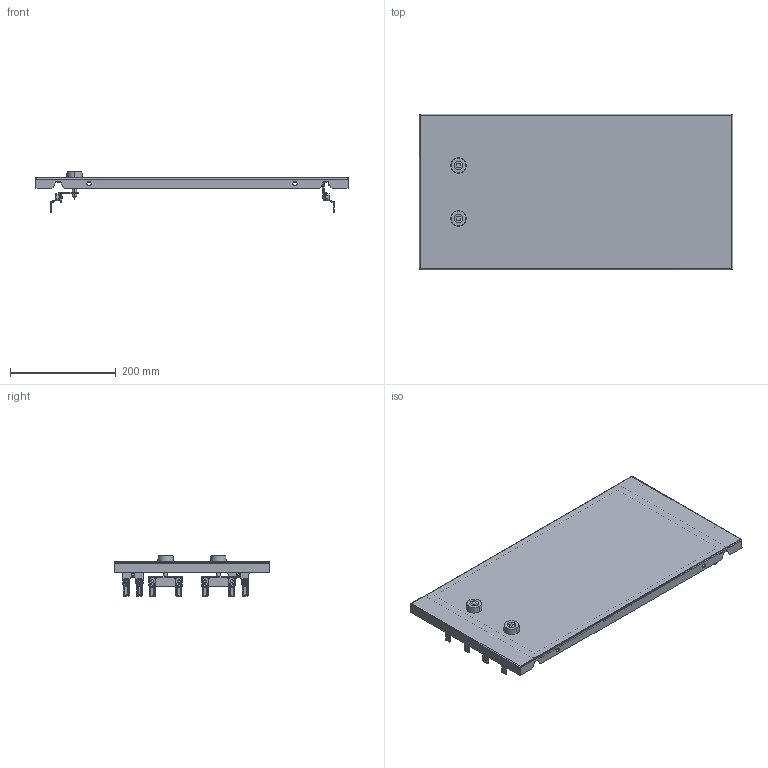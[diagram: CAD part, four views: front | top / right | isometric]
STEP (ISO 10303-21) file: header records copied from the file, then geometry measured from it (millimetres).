
FILE_DESCRIPTION(('CAx-IF Rec.Pracs.---Model Styling and Organization---1.2---2011-12-15','CAx-IF Rec.Pracs.---Geometric and Assembly Validation Properties---4.1---2014-06-16','CAx-IF Rec.Pracs.---PMI Polyline Presentation---2.0---2013-05-24'),'2;1');
FILE_NAME('R5M2WCPME6M.stp','2021-05-05T13:01:02+03:00',(''),(''),'STEP Interface 4.4 by CT CoreTechnologie','3D_Evolution4.4 by CT CoreTechnologie','');
FILE_SCHEMA(('AUTOMOTIVE_DESIGN { 1 0 10303 214 1 1 1 1 }'));
Length unit declared in the file: millimetre
Products named in the file (16): R5M2WCPME6M; AC00C485; MS737-1-1(1); MS737-1-1 Z_ ªàëâ; MS737-1-1 stop_fixed; RB.1586.00.00.0 ÑÁ_-02 (R5M2WCPME6M); RB.1586.00.01.0_-02 (R5M2WCPME6M); PF 7x14 MCC2.0_0300x0600; AC00C266; Ì6õ12-A5100231_straight; AC00C061_AC00C061; M6 x 16-DIN 7991 ISR_thread; RB.0687.00.00.1_-00; MS737-1-1(2); AC00C745; RB.0116.00.00.2_-00
Assembly tree (35 placements, depth 3):
  R5M2WCPME6M
    AC00C485  x8
    MS737-1-1(1)
      MS737-1-1 Z_ ªàëâ
      MS737-1-1 stop_fixed
    RB.1586.00.00.0 ÑÁ_-02 (R5M2WCPME6M)
      RB.1586.00.01.0_-02 (R5M2WCPME6M)
      PF 7x14 MCC2.0_0300x0600
      AC00C266  x2
      Ì6õ12-A5100231_straight
      AC00C061_AC00C061
    M6 x 16-DIN 7991 ISR_thread  x8
    RB.0687.00.00.1_-00  x2
    MS737-1-1(2)
      MS737-1-1 Z_ ªàëâ
      MS737-1-1 stop_fixed
    AC00C745  x2
    RB.0116.00.00.2_-00  x2
Bounding box: 594 x 295 x 77.45 mm (x, y, z)
Surface area: 529147.9 mm2 (no closed solid volume)
Topology: 0 solids, 48 shells, 1550 faces, 3882 edges, 2408 vertices
Faces by surface type: plane 650, cylinder 606, bspline 294
Entity records: 20832 total; most frequent: CARTESIAN_POINT 6439, ORIENTED_EDGE 2814, DIRECTION 2792, EDGE_CURVE 1407, AXIS2_PLACEMENT_3D 973, VERTEX_POINT 894, VECTOR 846, LINE 846
